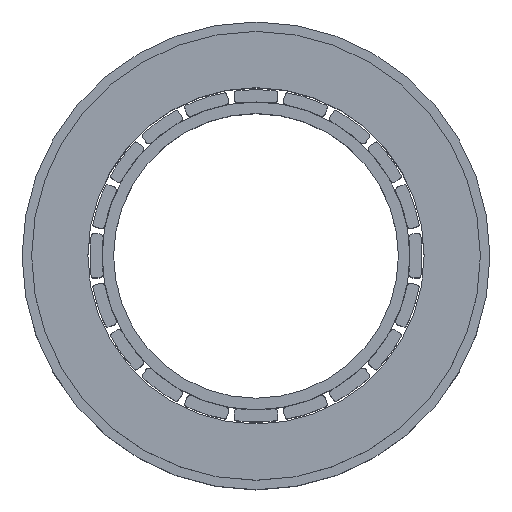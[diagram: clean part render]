
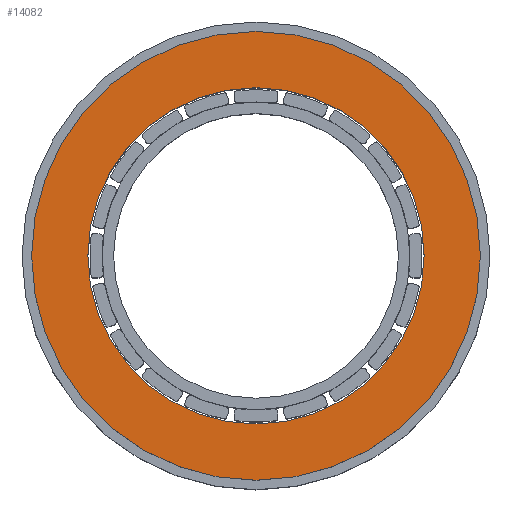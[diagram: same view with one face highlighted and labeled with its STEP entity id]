
A CAD part, top view. The second image highlights one B-rep face of the part: STEP entity #14082.
In plain terms, the highlighted planar face has unit normal (0, 0, 1).
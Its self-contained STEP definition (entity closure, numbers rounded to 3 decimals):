
#14027=CARTESIAN_POINT('',(33.1,0.,12.));
#14028=VERTEX_POINT('',#14027);
#14035=CARTESIAN_POINT('',(0.,0.,12.));
#14036=DIRECTION('',(1.,0.,-0.));
#14037=DIRECTION('',(0.,0.,1.));
#14038=AXIS2_PLACEMENT_3D('',#14035,#14037,#14036);
#14039=CIRCLE('',#14038,33.1);
#14040=EDGE_CURVE('',#14028,#14028,#14039,.T.);
#14052=CARTESIAN_POINT('',(24.8,0.,12.));
#14053=VERTEX_POINT('',#14052);
#14060=CARTESIAN_POINT('',(0.,0.,12.));
#14061=DIRECTION('',(1.,0.,0.));
#14062=DIRECTION('',(0.,0.,-1.));
#14063=AXIS2_PLACEMENT_3D('',#14060,#14062,#14061);
#14064=CIRCLE('',#14063,24.8);
#14065=EDGE_CURVE('',#14053,#14053,#14064,.T.);
#14071=CARTESIAN_POINT('',(-8.869,0.,12.));
#14072=DIRECTION('',(1.,0.,0.));
#14073=DIRECTION('',(0.,0.,1.));
#14074=AXIS2_PLACEMENT_3D('',#14071,#14073,#14072);
#14075=PLANE('',#14074);
#14076=ORIENTED_EDGE('',*,*,#14040,.T.);
#14077=EDGE_LOOP('',(#14076));
#14078=FACE_OUTER_BOUND('',#14077,.T.);
#14079=ORIENTED_EDGE('',*,*,#14065,.T.);
#14080=EDGE_LOOP('',(#14079));
#14081=FACE_BOUND('',#14080,.T.);
#14082=ADVANCED_FACE('',(#14078,#14081),#14075,.T.);
